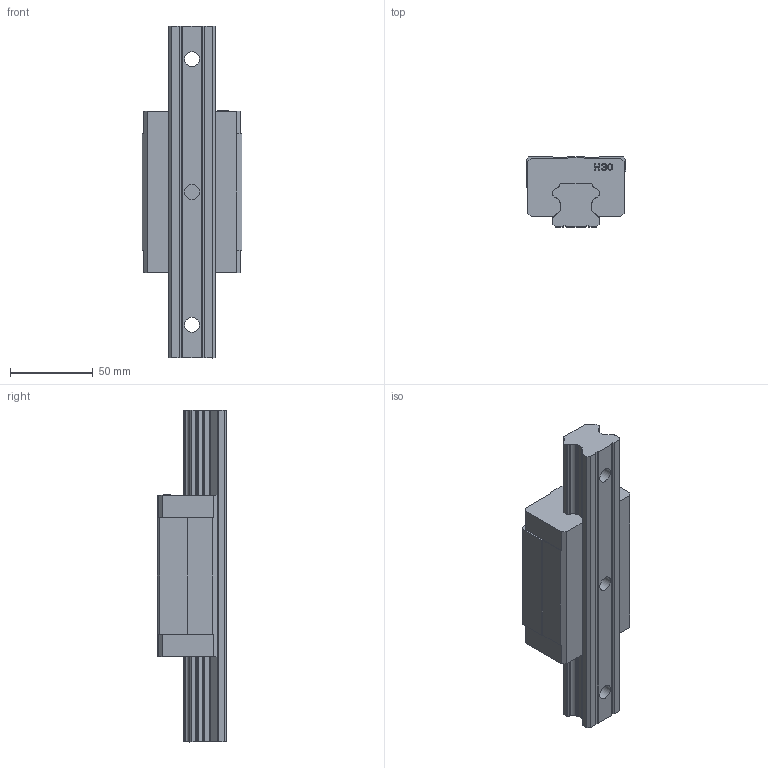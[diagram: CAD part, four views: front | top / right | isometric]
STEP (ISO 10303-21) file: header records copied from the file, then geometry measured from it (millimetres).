
FILE_DESCRIPTION(/* description */ (''),/* implementation_level */ '2;1');
FILE_NAME(/* name */ 'HGL30CA.stp',/* time_stamp */ '2021-04-14T20:17:56+08:00',/* author */ (''),/* organization */ (''),/* preprocessor_version */ 'ST-DEVELOPER v15',/* originating_system */ 'SIEMENS PLM Software NX 8.5',/* authorisation */ '');
FILE_SCHEMA (('CONFIG_CONTROL_DESIGN'));
Length unit declared in the file: millimetre
Products named in the file (1): _model1
Bounding box: 60 x 42 x 200 mm (x, y, z)
Volume: 272756.1 mm3; surface area: 52430.4 mm2
Topology: 2 solids, 2 shells, 266 faces, 756 edges, 505 vertices
Faces by surface type: plane 214, cylinder 52
Full cylindrical faces by diameter (mm): 8 x4, 9 x3, 14 x3
Entity records: 8572 total; most frequent: CARTESIAN_POINT 1525, ORIENTED_EDGE 1486, DIRECTION 1368, EDGE_CURVE 743, LINE 626, VECTOR 626, VERTEX_POINT 502, AXIS2_PLACEMENT_3D 371
